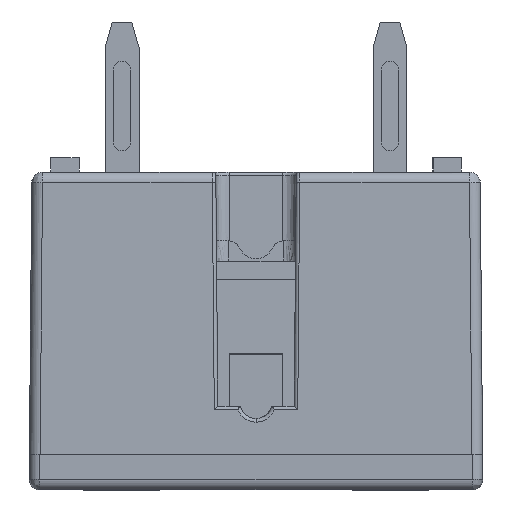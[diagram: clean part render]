
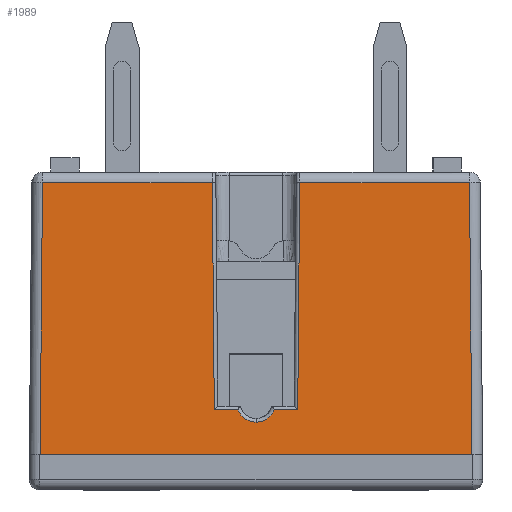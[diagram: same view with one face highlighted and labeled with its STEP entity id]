
A CAD part, left-side view. The second image highlights one B-rep face of the part: STEP entity #1989.
In plain terms, the highlighted planar face has unit normal (-1, 0, 0.009).
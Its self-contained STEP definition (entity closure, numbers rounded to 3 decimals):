
#10 = LINE ( 'NONE', #5264, #6110 ) ;
#451 = CARTESIAN_POINT ( 'NONE',  ( -15.494, 6.285, 0.848 ) ) ;
#532 = VERTEX_POINT ( 'NONE', #2981 ) ;
#1033 = EDGE_CURVE ( 'NONE', #15605, #11907, #15624, .T. ) ;
#1089 = CARTESIAN_POINT ( 'NONE',  ( -15.427, 5.977, 8.603 ) ) ;
#1327 = VECTOR ( 'NONE', #11671, 1000. ) ;
#1490 = CARTESIAN_POINT ( 'NONE',  ( -15.484, 0.351, 2.014 ) ) ;
#1506 = CARTESIAN_POINT ( 'NONE',  ( -15.484, -0.351, 2.014 ) ) ;
#1507 = LINE ( 'NONE', #7816, #5624 ) ;
#1518 = VECTOR ( 'NONE', #14263, 1000. ) ;
#1587 = CARTESIAN_POINT ( 'NONE',  ( -15.485, 0., 1.901 ) ) ;
#1652 = ORIENTED_EDGE ( 'NONE', *, *, #8077, .F. ) ;
#1937 = EDGE_CURVE ( 'NONE', #5215, #15509, #2833, .T. ) ;
#1947 = CARTESIAN_POINT ( 'NONE',  ( -15.485, 0., 1.901 ) ) ;
#1989 = ADVANCED_FACE ( 'NONE', ( #13775 ), #2730, .F. ) ;
#2515 = VECTOR ( 'NONE', #11711, 1000. ) ;
#2730 = PLANE ( 'NONE',  #3371 ) ;
#2833 = B_SPLINE_CURVE_WITH_KNOTS ( 'NONE', 3,
 ( #1587, #2967, #11272, #1506, #5308, #14986, #6524 ),
 .UNSPECIFIED., .F., .F.,
 ( 4, 1, 1, 1, 4 ),
 ( 0., 0.283, 0.565, 0.848, 1. ),
 .UNSPECIFIED. ) ;
#2967 = CARTESIAN_POINT ( 'NONE',  ( -15.485, -0.062, 1.901 ) ) ;
#2981 = CARTESIAN_POINT ( 'NONE',  ( -15.482, -1.168, 2.251 ) ) ;
#3037 = LINE ( 'NONE', #7968, #11144 ) ;
#3371 = AXIS2_PLACEMENT_3D ( 'NONE', #451, #15072, #5382 ) ;
#3924 = CARTESIAN_POINT ( 'NONE',  ( -15.482, 0.512, 2.251 ) ) ;
#3981 = EDGE_CURVE ( 'NONE', #11907, #11931, #6295, .T. ) ;
#4179 = CARTESIAN_POINT ( 'NONE',  ( -15.427, 5.977, 8.603 ) ) ;
#4846 = VERTEX_POINT ( 'NONE', #5350 ) ;
#4941 = DIRECTION ( 'NONE',  ( 0., -1., 0. ) ) ;
#5215 = VERTEX_POINT ( 'NONE', #1947 ) ;
#5264 = CARTESIAN_POINT ( 'NONE',  ( -15.482, 0., 2.251 ) ) ;
#5308 = CARTESIAN_POINT ( 'NONE',  ( -15.483, -0.457, 2.134 ) ) ;
#5350 = CARTESIAN_POINT ( 'NONE',  ( -15.427, 1.223, 8.603 ) ) ;
#5382 = DIRECTION ( 'NONE',  ( 0., -1., 0. ) ) ;
#5624 = VECTOR ( 'NONE', #6445, 1000. ) ;
#5780 = CARTESIAN_POINT ( 'NONE',  ( -15.427, 0., 8.603 ) ) ;
#5933 = ORIENTED_EDGE ( 'NONE', *, *, #8976, .F. ) ;
#6110 = VECTOR ( 'NONE', #4941, 1000. ) ;
#6295 = LINE ( 'NONE', #14916, #9358 ) ;
#6425 = CARTESIAN_POINT ( 'NONE',  ( -15.485, 0.186, 1.922 ) ) ;
#6445 = DIRECTION ( 'NONE',  ( 0., -1., 0. ) ) ;
#6524 = CARTESIAN_POINT ( 'NONE',  ( -15.482, -0.512, 2.251 ) ) ;
#6654 = CARTESIAN_POINT ( 'NONE',  ( -15.482, -0.512, 2.251 ) ) ;
#7412 = VECTOR ( 'NONE', #11732, 1000. ) ;
#7572 = LINE ( 'NONE', #4179, #1327 ) ;
#7638 = CARTESIAN_POINT ( 'NONE',  ( -15.482, 0.5, 2.22 ) ) ;
#7816 = CARTESIAN_POINT ( 'NONE',  ( -15.427, 0., 8.603 ) ) ;
#7968 = CARTESIAN_POINT ( 'NONE',  ( -15.482, 1.168, 2.213 ) ) ;
#8005 = CARTESIAN_POINT ( 'NONE',  ( -15.482, -1.168, 2.213 ) ) ;
#8077 = EDGE_CURVE ( 'NONE', #15509, #532, #10, .T. ) ;
#8114 = CARTESIAN_POINT ( 'NONE',  ( -15.427, -5.977, 8.603 ) ) ;
#8189 = CARTESIAN_POINT ( 'NONE',  ( -15.485, 0., 1.901 ) ) ;
#8204 = EDGE_CURVE ( 'NONE', #532, #15605, #10501, .T. ) ;
#8408 = ORIENTED_EDGE ( 'NONE', *, *, #12871, .F. ) ;
#8976 = EDGE_CURVE ( 'NONE', #14457, #12510, #14236, .T. ) ;
#9228 = VERTEX_POINT ( 'NONE', #12367 ) ;
#9358 = VECTOR ( 'NONE', #10160, 1000. ) ;
#9545 = CARTESIAN_POINT ( 'NONE',  ( -15.427, -1.223, 8.603 ) ) ;
#9760 = ORIENTED_EDGE ( 'NONE', *, *, #11441, .F. ) ;
#10043 = CARTESIAN_POINT ( 'NONE',  ( -15.482, 1.168, 2.251 ) ) ;
#10136 = CARTESIAN_POINT ( 'NONE',  ( -15.483, 0.457, 2.134 ) ) ;
#10160 = DIRECTION ( 'NONE',  ( -0.009, -0.009, -1. ) ) ;
#10406 = VERTEX_POINT ( 'NONE', #1089 ) ;
#10419 = ORIENTED_EDGE ( 'NONE', *, *, #12547, .T. ) ;
#10472 = CARTESIAN_POINT ( 'NONE',  ( -15.482, 0.512, 2.251 ) ) ;
#10501 = LINE ( 'NONE', #8005, #2515 ) ;
#10710 = LINE ( 'NONE', #15631, #1518 ) ;
#11100 = EDGE_LOOP ( 'NONE', ( #10419, #13398, #12313, #13474, #1652, #13990, #8408, #5933, #11764, #9760, #13549 ) ) ;
#11144 = VECTOR ( 'NONE', #12878, 1000. ) ;
#11272 = CARTESIAN_POINT ( 'NONE',  ( -15.485, -0.186, 1.922 ) ) ;
#11339 = CARTESIAN_POINT ( 'NONE',  ( -15.485, 0.062, 1.901 ) ) ;
#11441 = EDGE_CURVE ( 'NONE', #10406, #4846, #1507, .T. ) ;
#11577 = CARTESIAN_POINT ( 'NONE',  ( -15.482, 0., 2.251 ) ) ;
#11671 = DIRECTION ( 'NONE',  ( 0.009, -0.009, 1. ) ) ;
#11711 = DIRECTION ( 'NONE',  ( 0.009, -0.009, 1. ) ) ;
#11732 = DIRECTION ( 'NONE',  ( 0., -1., 0. ) ) ;
#11764 = ORIENTED_EDGE ( 'NONE', *, *, #15187, .F. ) ;
#11905 = DIRECTION ( 'NONE',  ( 0., -1., 0. ) ) ;
#11907 = VERTEX_POINT ( 'NONE', #8114 ) ;
#11931 = VERTEX_POINT ( 'NONE', #12948 ) ;
#12313 = ORIENTED_EDGE ( 'NONE', *, *, #1033, .F. ) ;
#12367 = CARTESIAN_POINT ( 'NONE',  ( -15.493, 6.043, 1. ) ) ;
#12510 = VERTEX_POINT ( 'NONE', #10472 ) ;
#12547 = EDGE_CURVE ( 'NONE', #9228, #11931, #10710, .T. ) ;
#12629 = VECTOR ( 'NONE', #11905, 1000. ) ;
#12871 = EDGE_CURVE ( 'NONE', #12510, #5215, #15400, .T. ) ;
#12878 = DIRECTION ( 'NONE',  ( -0.009, -0.009, -1. ) ) ;
#12948 = CARTESIAN_POINT ( 'NONE',  ( -15.493, -6.043, 1. ) ) ;
#13398 = ORIENTED_EDGE ( 'NONE', *, *, #3981, .F. ) ;
#13474 = ORIENTED_EDGE ( 'NONE', *, *, #8204, .F. ) ;
#13549 = ORIENTED_EDGE ( 'NONE', *, *, #15024, .F. ) ;
#13775 = FACE_OUTER_BOUND ( 'NONE', #11100, .T. ) ;
#13990 = ORIENTED_EDGE ( 'NONE', *, *, #1937, .F. ) ;
#14236 = LINE ( 'NONE', #11577, #7412 ) ;
#14263 = DIRECTION ( 'NONE',  ( 0., -1., 0. ) ) ;
#14457 = VERTEX_POINT ( 'NONE', #10043 ) ;
#14916 = CARTESIAN_POINT ( 'NONE',  ( -15.493, -6.043, 1. ) ) ;
#14986 = CARTESIAN_POINT ( 'NONE',  ( -15.482, -0.5, 2.22 ) ) ;
#15024 = EDGE_CURVE ( 'NONE', #9228, #10406, #7572, .T. ) ;
#15072 = DIRECTION ( 'NONE',  ( 1., 0., -0.009 ) ) ;
#15187 = EDGE_CURVE ( 'NONE', #4846, #14457, #3037, .T. ) ;
#15400 = B_SPLINE_CURVE_WITH_KNOTS ( 'NONE', 3,
 ( #3924, #7638, #10136, #1490, #6425, #11339, #8189 ),
 .UNSPECIFIED., .F., .F.,
 ( 4, 1, 1, 1, 4 ),
 ( 0., 0.152, 0.435, 0.717, 1. ),
 .UNSPECIFIED. ) ;
#15509 = VERTEX_POINT ( 'NONE', #6654 ) ;
#15605 = VERTEX_POINT ( 'NONE', #9545 ) ;
#15624 = LINE ( 'NONE', #5780, #12629 ) ;
#15631 = CARTESIAN_POINT ( 'NONE',  ( -15.493, 0., 1. ) ) ;
